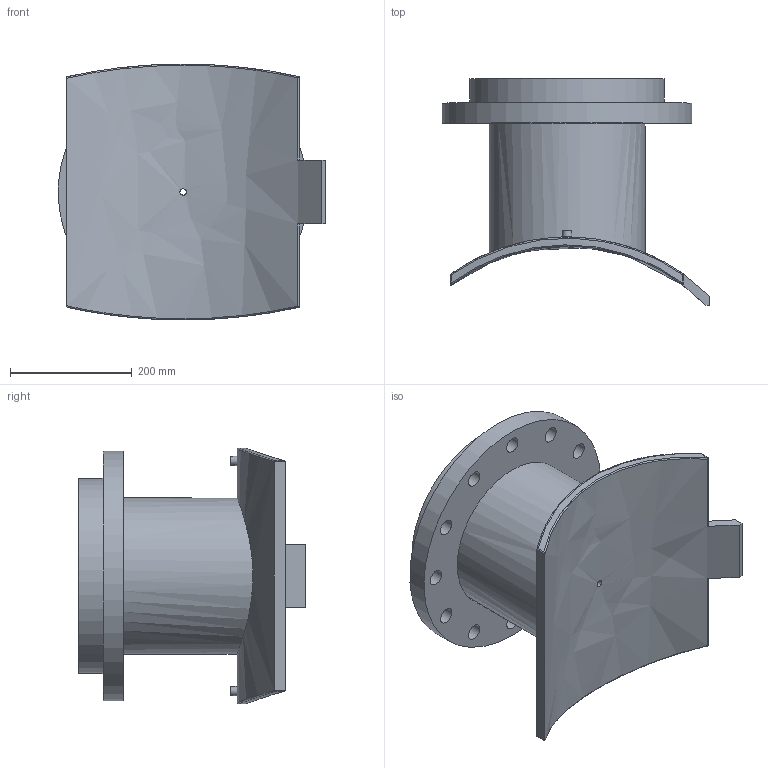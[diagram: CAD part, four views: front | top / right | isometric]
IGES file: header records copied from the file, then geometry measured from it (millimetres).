
Global section: file name: 495903630250T; native system: Autodesk Inventor 2019; preprocessor: unknown; author: KIM; date: 20240403.210348; units: millimetre
Bounding box: 438.36 x 372.06 x 419.97 mm (x, y, z)
Volume: 11283880 mm3; surface area: 982593.3 mm2
Topology: 1 solids, 1 shells, 62 faces, 163 edges, 126 vertices
Faces by surface type: bspline 62
